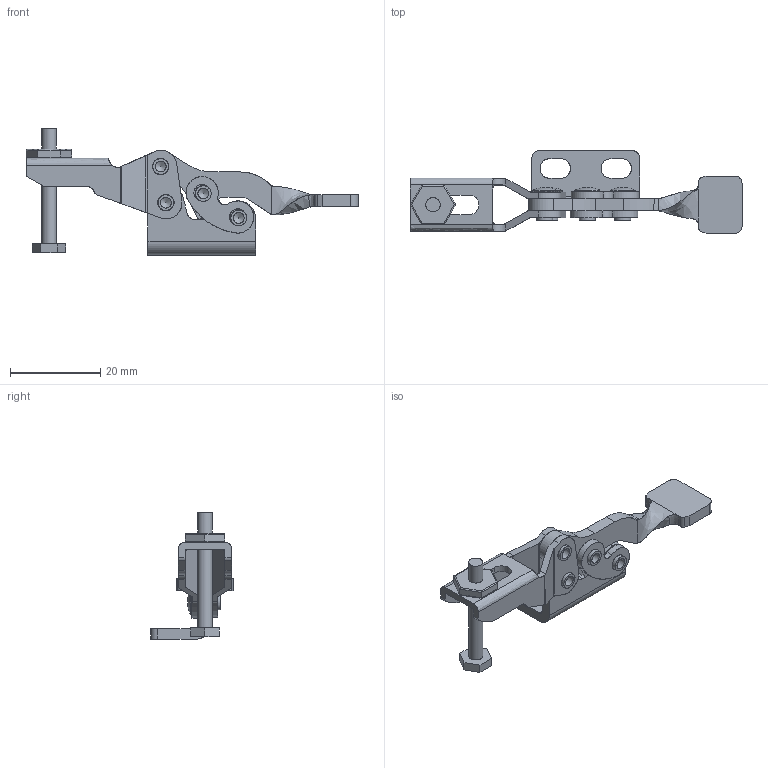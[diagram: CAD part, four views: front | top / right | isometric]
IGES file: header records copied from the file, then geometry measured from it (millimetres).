
Global section: file name: C:\T&M Tech\Carbide Tech\Work\100 series\hr-101\hr-101.igs; native system: Unigraphics Version X V2.0; preprocessor: Unigraphics NX IGES V2.0; date: 20041216.111322; units: inch
Bounding box: 73.48 x 18.35 x 27.94 mm (x, y, z)
Surface area: 5643 mm2 (no closed solid volume)
Topology: 0 solids, 0 shells, 216 faces, 2632 edges, 2597 vertices
Faces by surface type: revolution 111, extrusion 95, bspline 8, offset 2
